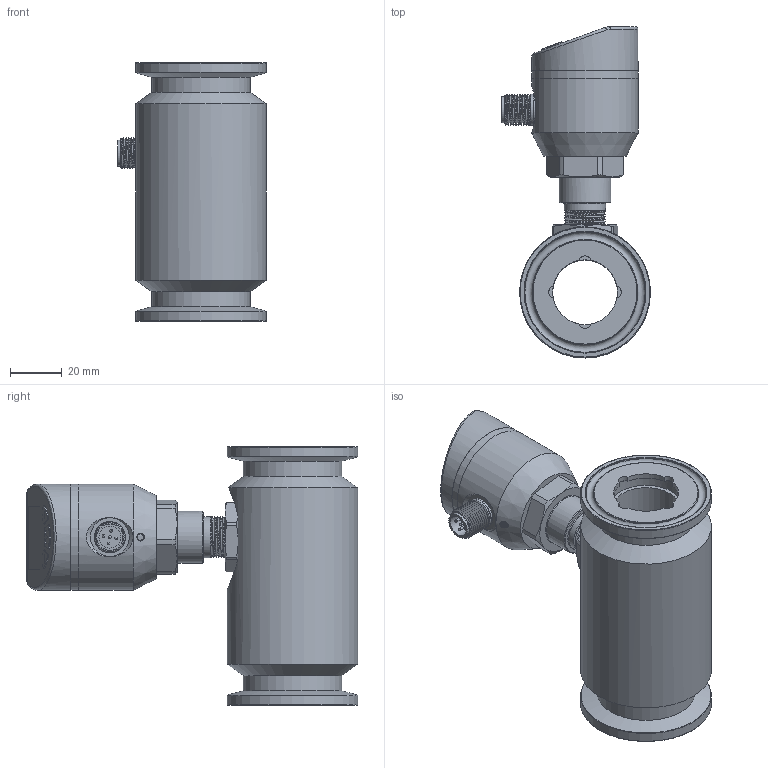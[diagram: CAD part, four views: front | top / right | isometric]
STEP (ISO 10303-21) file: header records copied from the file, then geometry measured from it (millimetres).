
FILE_DESCRIPTION( (''), '2;1');
FILE_NAME( 'QTKA_DN25_tri-clamp.step', '2024-06-17T11:46:37+08:00', (''), (''), '', '', '');
FILE_SCHEMA (('AUTOMOTIVE_DESIGN { 1 0 10303 214 3 1 1 1 }'));
Length unit declared in the file: millimetre
Products named in the file (1): QTKA DN25_tri-clamp
Bounding box: 57.47 x 128.05 x 100 mm (x, y, z)
Volume: 164601.8 mm3; surface area: 54721.4 mm2
Topology: 5 solids, 7 shells, 470 faces, 1134 edges, 715 vertices
Faces by surface type: plane 158, cylinder 158, cone 57, torus 49, bspline 42, sphere 6
Full cylindrical faces by diameter (mm): 1 x5, 2.7 x4, 8.4 x1, 9.7 x1, 9.8 x1, 10.1 x1, 11.6 x1, 12 x1, 15.9 x1, 16.5 x1, 20 x1, 23 x3, 25 x1, 26 x4, 26.1 x1, 28 x2, 37 x1, 38 x2, 41 x3, 50.5 x3
Entity records: 30534 total; most frequent: CARTESIAN_POINT 18775, DIRECTION 2126, ORIENTED_EDGE 2030, EDGE_CURVE 1015, AXIS2_PLACEMENT_3D 868, VERTEX_POINT 673, EDGE_LOOP 590, ADVANCED_FACE 468
